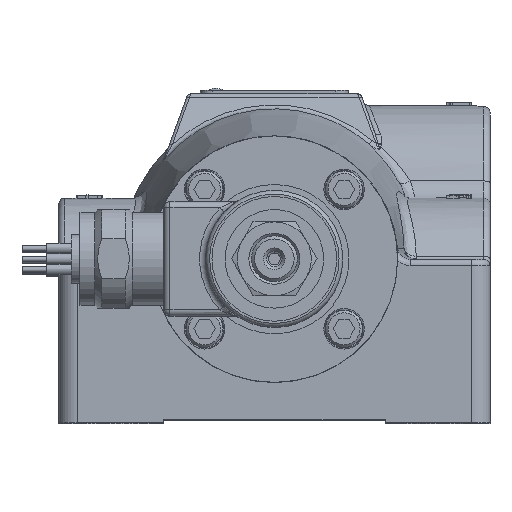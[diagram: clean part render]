
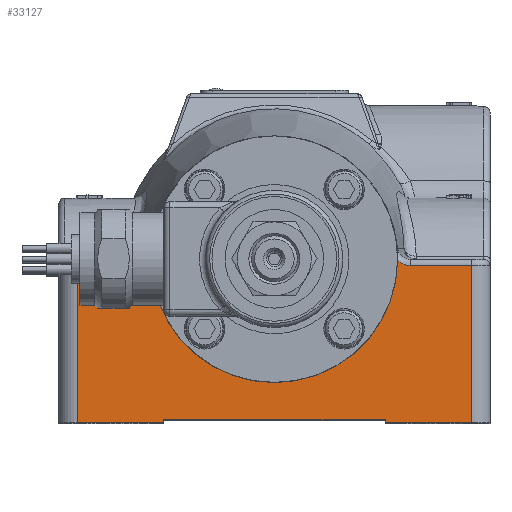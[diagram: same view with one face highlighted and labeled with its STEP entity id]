
A CAD part, top view. The second image highlights one B-rep face of the part: STEP entity #33127.
In plain terms, the highlighted planar face has unit normal (0, 0, 1).
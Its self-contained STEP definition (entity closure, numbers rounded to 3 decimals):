
#378=B_SPLINE_CURVE_WITH_KNOTS('',3,(#51035,#51036,#51037,#51038),
 .UNSPECIFIED.,.F.,.F.,(4,4),(0.356,0.703),
 .UNSPECIFIED.);
#379=B_SPLINE_CURVE_WITH_KNOTS('',3,(#51042,#51043,#51044,#51045,#51046),
 .UNSPECIFIED.,.F.,.F.,(4,1,4),(0.,0.291,0.347),
 .UNSPECIFIED.);
#2459=LINE('',#51029,#4106);
#2460=LINE('',#51031,#4107);
#2461=LINE('',#51033,#4108);
#2462=LINE('',#51048,#4109);
#2463=LINE('',#51050,#4110);
#2464=LINE('',#51052,#4111);
#2465=LINE('',#51054,#4112);
#2466=LINE('',#51056,#4113);
#2467=LINE('',#51057,#4114);
#4106=VECTOR('',#40375,2.223);
#4107=VECTOR('',#40376,4.048);
#4108=VECTOR('',#40377,1.583);
#4109=VECTOR('',#40380,1.583);
#4110=VECTOR('',#40381,4.048);
#4111=VECTOR('',#40382,2.223);
#4112=VECTOR('',#40383,0.079);
#4113=VECTOR('',#40384,5.715);
#4114=VECTOR('',#40385,0.079);
#6873=FACE_OUTER_BOUND('',#9261,.T.);
#9261=EDGE_LOOP('',(#22207,#22208,#22209,#22210,#22211,#22212,#22213,#22214,
#22215,#22216,#22217,#22218));
#11751=CIRCLE('',#35664,3.178);
#13767=VERTEX_POINT('',#51027);
#13768=VERTEX_POINT('',#51028);
#13769=VERTEX_POINT('',#51030);
#13770=VERTEX_POINT('',#51032);
#13771=VERTEX_POINT('',#51034);
#13772=VERTEX_POINT('',#51039);
#13773=VERTEX_POINT('',#51041);
#13774=VERTEX_POINT('',#51047);
#13775=VERTEX_POINT('',#51049);
#13776=VERTEX_POINT('',#51051);
#13777=VERTEX_POINT('',#51053);
#13778=VERTEX_POINT('',#51055);
#16932=EDGE_CURVE('',#13767,#13768,#2459,.T.);
#16933=EDGE_CURVE('',#13769,#13768,#2460,.T.);
#16934=EDGE_CURVE('',#13770,#13769,#2461,.T.);
#16935=EDGE_CURVE('',#13771,#13770,#378,.T.);
#16936=EDGE_CURVE('',#13772,#13771,#11751,.T.);
#16937=EDGE_CURVE('',#13773,#13772,#379,.T.);
#16938=EDGE_CURVE('',#13774,#13773,#2462,.T.);
#16939=EDGE_CURVE('',#13775,#13774,#2463,.T.);
#16940=EDGE_CURVE('',#13775,#13776,#2464,.T.);
#16941=EDGE_CURVE('',#13776,#13777,#2465,.T.);
#16942=EDGE_CURVE('',#13777,#13778,#2466,.T.);
#16943=EDGE_CURVE('',#13778,#13767,#2467,.T.);
#22207=ORIENTED_EDGE('',*,*,#16932,.T.);
#22208=ORIENTED_EDGE('',*,*,#16933,.F.);
#22209=ORIENTED_EDGE('',*,*,#16934,.F.);
#22210=ORIENTED_EDGE('',*,*,#16935,.F.);
#22211=ORIENTED_EDGE('',*,*,#16936,.F.);
#22212=ORIENTED_EDGE('',*,*,#16937,.F.);
#22213=ORIENTED_EDGE('',*,*,#16938,.F.);
#22214=ORIENTED_EDGE('',*,*,#16939,.F.);
#22215=ORIENTED_EDGE('',*,*,#16940,.T.);
#22216=ORIENTED_EDGE('',*,*,#16941,.T.);
#22217=ORIENTED_EDGE('',*,*,#16942,.T.);
#22218=ORIENTED_EDGE('',*,*,#16943,.T.);
#30313=PLANE('',#35663);
#33127=ADVANCED_FACE('',(#6873),#30313,.T.);
#35663=AXIS2_PLACEMENT_3D('',#51026,#40373,#40374);
#35664=AXIS2_PLACEMENT_3D('',#51040,#40378,#40379);
#40373=DIRECTION('center_axis',(0.,0.,1.));
#40374=DIRECTION('ref_axis',(1.,0.,0.));
#40375=DIRECTION('',(1.,0.,0.));
#40376=DIRECTION('',(0.,-1.,0.));
#40377=DIRECTION('',(1.,0.,0.));
#40378=DIRECTION('center_axis',(0.,0.,1.));
#40379=DIRECTION('ref_axis',(-1.,0.,0.));
#40380=DIRECTION('',(1.,0.,0.));
#40381=DIRECTION('',(0.,1.,0.));
#40382=DIRECTION('',(1.,0.,0.));
#40383=DIRECTION('',(0.,1.,0.));
#40384=DIRECTION('',(1.,0.,0.));
#40385=DIRECTION('',(0.,-1.,0.));
#51026=CARTESIAN_POINT('Origin',(0.,-4.286,8.652));
#51027=CARTESIAN_POINT('',(2.858,-4.207,8.652));
#51028=CARTESIAN_POINT('',(5.08,-4.207,8.652));
#51029=CARTESIAN_POINT('',(0.,-4.207,8.652));
#51030=CARTESIAN_POINT('',(5.08,-0.159,8.652));
#51031=CARTESIAN_POINT('',(5.08,-3.215,8.652));
#51032=CARTESIAN_POINT('',(3.497,-0.159,8.652));
#51033=CARTESIAN_POINT('',(0.,-0.159,8.652));
#51034=CARTESIAN_POINT('',(3.177,-0.037,8.652));
#51035=CARTESIAN_POINT('Ctrl Pts',(3.178,-0.037,
8.652));
#51036=CARTESIAN_POINT('Ctrl Pts',(3.265,-0.114,
8.652));
#51037=CARTESIAN_POINT('Ctrl Pts',(3.381,-0.159,
8.652));
#51038=CARTESIAN_POINT('Ctrl Pts',(3.497,-0.159,
8.652));
#51039=CARTESIAN_POINT('',(-3.177,-0.037,8.652));
#51040=CARTESIAN_POINT('Origin',(0.,0.,8.652));
#51041=CARTESIAN_POINT('',(-3.497,-0.159,8.652));
#51042=CARTESIAN_POINT('Ctrl Pts',(-3.497,-0.159,
8.652));
#51043=CARTESIAN_POINT('Ctrl Pts',(-3.4,-0.159,
8.652));
#51044=CARTESIAN_POINT('Ctrl Pts',(-3.283,-0.122,
8.652));
#51045=CARTESIAN_POINT('Ctrl Pts',(-3.192,-0.05,
8.652));
#51046=CARTESIAN_POINT('Ctrl Pts',(-3.178,-0.037,
8.652));
#51047=CARTESIAN_POINT('',(-5.08,-0.159,8.652));
#51048=CARTESIAN_POINT('',(0.,-0.159,8.652));
#51049=CARTESIAN_POINT('',(-5.08,-4.207,8.652));
#51050=CARTESIAN_POINT('',(-5.08,-3.215,8.652));
#51051=CARTESIAN_POINT('',(-2.858,-4.207,8.652));
#51052=CARTESIAN_POINT('',(0.,-4.207,8.652));
#51053=CARTESIAN_POINT('',(-2.858,-4.128,8.652));
#51054=CARTESIAN_POINT('',(-2.858,-4.247,8.652));
#51055=CARTESIAN_POINT('',(2.858,-4.128,8.652));
#51056=CARTESIAN_POINT('',(0.,-4.128,8.652));
#51057=CARTESIAN_POINT('',(2.858,-4.247,8.652));
